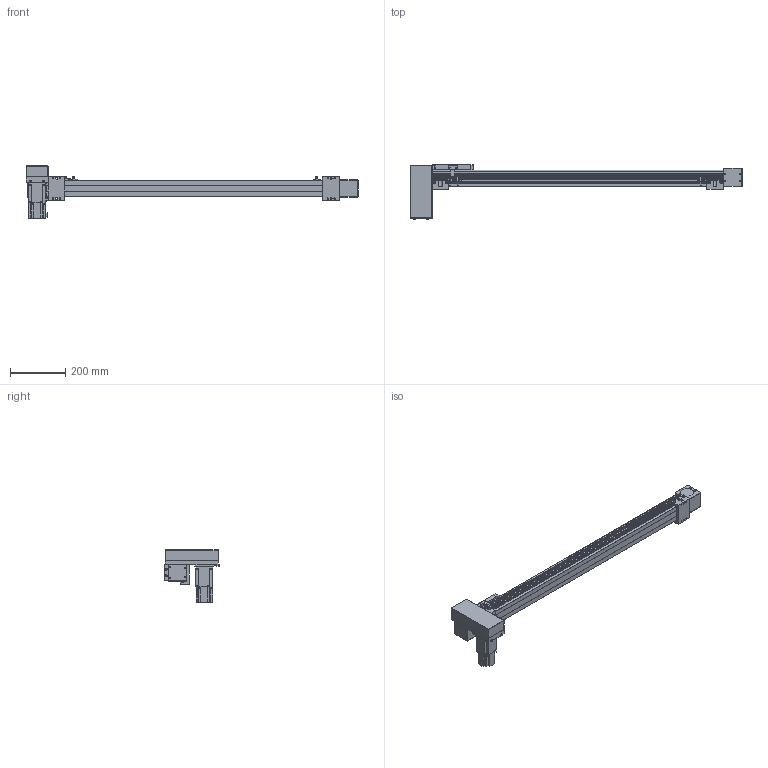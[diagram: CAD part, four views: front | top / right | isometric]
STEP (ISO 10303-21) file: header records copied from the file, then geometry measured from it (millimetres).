
FILE_DESCRIPTION(/* description */ ('STEP AP214'),/* implementation_level */ '2;1');
FILE_NAME(/* name */ 'SK60-P13-S900-RD-T40-C1-N(0)',/* time_stamp */ '2023-04-06T04:55:32+02:00',/* author */ ('License CC BY-ND 4.0'),/* organization */ ('CADENAS'),/* preprocessor_version */ 'ST-DEVELOPER v19.3',/* originating_system */ 'PARTsolutions',/* authorisation */ ' ');
FILE_SCHEMA (('AUTOMOTIVE_DESIGN {1 0 10303 214 3 1 1}'));
Length unit declared in the file: millimetre
Products named in the file (10): SK60-P13-S900-RD-T40-C1-N(0); PSC140-sensor; SK60-S450_seat; SK60-S450-BL-C1_slider; SK60_body3; SK60_body6; SK60-BL_body2; T40-p1; SK60-RD_fb; SK60-S900-RD-C1_body
Assembly tree (16 placements, depth 2):
  SK60-P13-S900-RD-T40-C1-N(0)
    PSC140-sensor  x3
    SK60-S450_seat  x2
    SK60-S450-BL-C1_slider
    SK60_body3  x3
    SK60_body6  x2
    SK60-BL_body2  x2
    T40-p1
    SK60-RD_fb
    SK60-S900-RD-C1_body
Bounding box: 1205.5 x 199 x 189.7 mm (x, y, z)
Volume: 5267862.5 mm3; surface area: 662655.2 mm2
Topology: 16 solids, 16 shells, 810 faces, 2048 edges, 1349 vertices
Faces by surface type: plane 524, cylinder 262, cone 22, torus 2
Full cylindrical faces by diameter (mm): 2.8 x3, 3.3 x4, 4 x2, 4.5 x30, 4.6 x3, 4.917 x16, 5 x6, 5.478 x4, 5.5 x19, 6.5 x4, 7 x2, 8 x4, 8.5 x4, 9.988 x4, 10 x8, 14 x1, 47 x3, 50 x2
Entity records: 18655 total; most frequent: DIRECTION 3184, CARTESIAN_POINT 3150, ORIENTED_EDGE 2940, EDGE_CURVE 1470, AXIS2_PLACEMENT_3D 1068, LINE 1048, VECTOR 1048, VERTEX_POINT 1034
